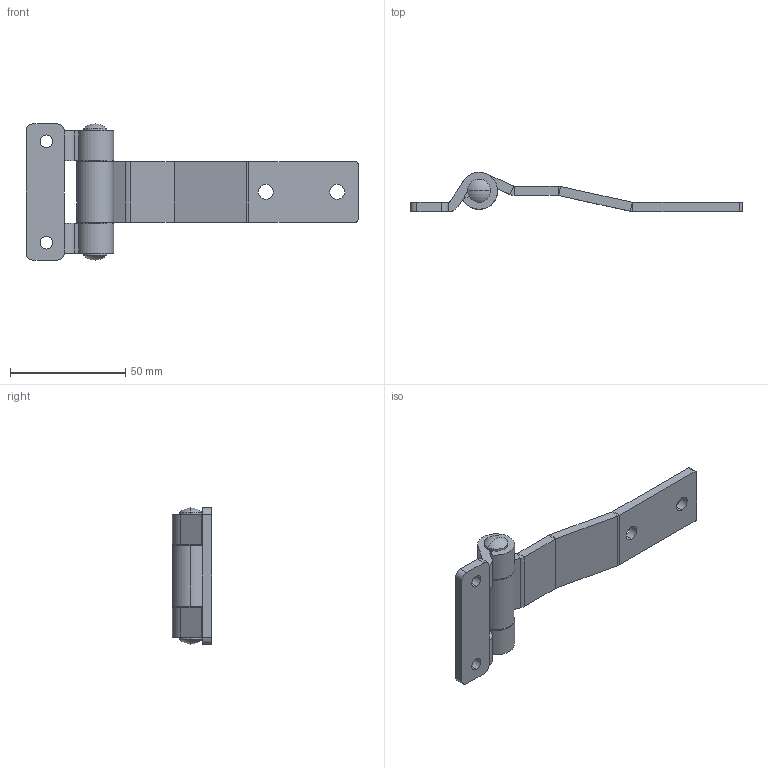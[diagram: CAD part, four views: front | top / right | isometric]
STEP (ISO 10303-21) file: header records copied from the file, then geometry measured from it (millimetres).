
FILE_DESCRIPTION (( 'STEP AP214' ), '1' );
FILE_NAME ('HL057-2.STEP', '2023-06-28T08:15:37', ( 'Windows 蚚誧' ), ( '' ), 'SwSTEP 2.0', 'SolidWorks 2019', '' );
FILE_SCHEMA (( 'AUTOMOTIVE_DESIGN' ));
Length unit declared in the file: millimetre
Products named in the file (4): HL057-2A; HL057-2; HL057-2种隊; HL057-2B
Assembly tree (3 placements, depth 2):
  HL057-2
    HL057-2A
    HL057-2B
    HL057-2种隊
Bounding box: 144 x 16.99 x 59 mm (x, y, z)
Volume: 26279.3 mm3; surface area: 16246.9 mm2
Topology: 3 solids, 3 shells, 90 faces, 208 edges, 126 vertices
Faces by surface type: plane 44, cylinder 42, sphere 4
Entity records: 2720 total; most frequent: DIRECTION 480, CARTESIAN_POINT 456, ORIENTED_EDGE 416, EDGE_CURVE 208, AXIS2_PLACEMENT_3D 180, VERTEX_POINT 126, VECTOR 120, LINE 120
